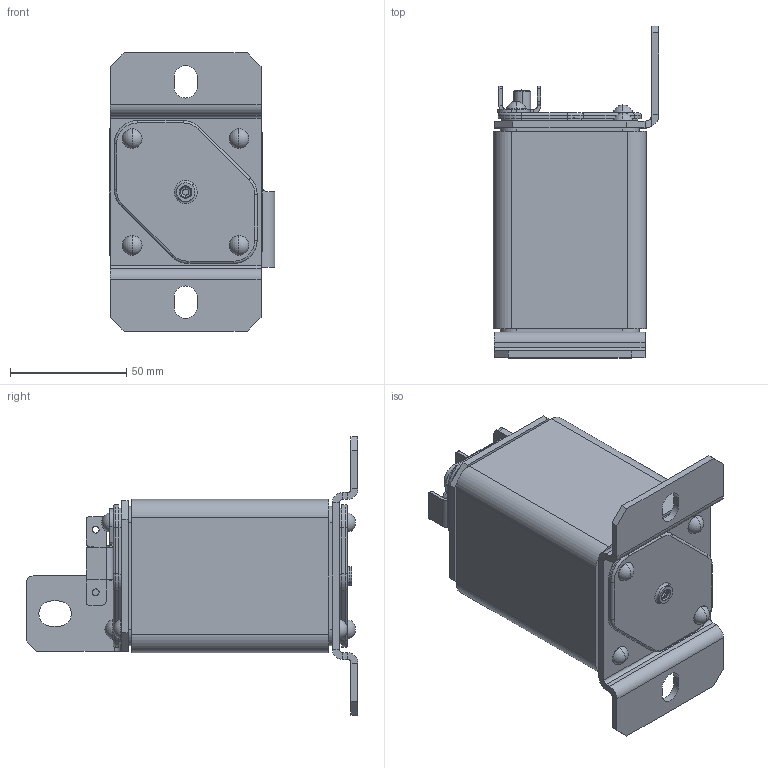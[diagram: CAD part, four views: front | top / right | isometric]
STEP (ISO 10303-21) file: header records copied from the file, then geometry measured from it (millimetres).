
FILE_DESCRIPTION (( 'STEP AP214' ), '1' );
FILE_NAME ('Ïðåäîõðàíèòåëü ÏÏ57-37682-Ñ-XXXA-XXXX-ÊÝÀÇ.STEP', '2023-05-11T12:19:24', ( '' ), ( '' ), 'SwSTEP 2.0', 'SolidWorks 2018', '' );
FILE_SCHEMA (( 'AUTOMOTIVE_DESIGN' ));
Length unit declared in the file: millimetre
Products named in the file (1): Ïðåäîõðàíèòåëü ÏÏ57-37682-Ñ-XXXA-XXXX-ÊÝÀÇ
Bounding box: 71.5 x 143 x 120 mm (x, y, z)
Volume: 429899.4 mm3; surface area: 60203 mm2
Topology: 1 solids, 14 shells, 637 faces, 1524 edges, 935 vertices
Faces by surface type: plane 314, cylinder 233, torus 50, cone 24, sphere 16
Entity records: 26096 total; most frequent: CARTESIAN_POINT 3838, DIRECTION 3369, ORIENTED_EDGE 3048, EDGE_CURVE 1524, AXIS2_PLACEMENT_3D 1266, VERTEX_POINT 935, VECTOR 837, LINE 837
